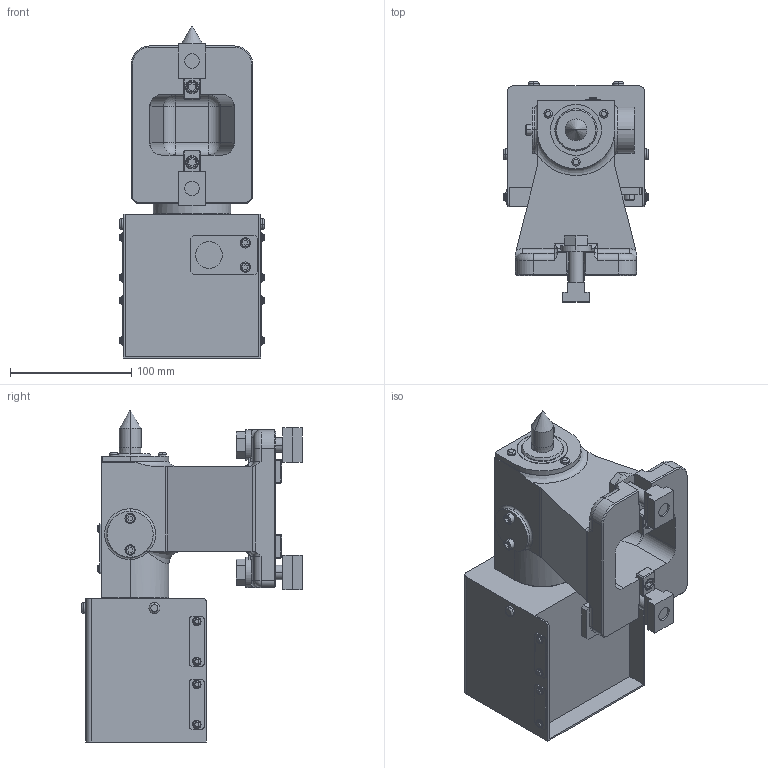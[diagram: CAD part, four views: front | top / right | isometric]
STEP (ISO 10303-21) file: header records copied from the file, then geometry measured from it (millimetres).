
FILE_DESCRIPTION (( 'STEP AP214' ), '1' );
FILE_NAME ('MR120A(H)N.STEP', '2020-03-17T08:50:29', ( '' ), ( '' ), 'SwSTEP 2.0', 'SolidWorks 2017', '' );
FILE_SCHEMA (( 'AUTOMOTIVE_DESIGN' ));
Length unit declared in the file: millimetre
Products named in the file (12): MR120A(H)N; CLAMPING PARTS(61E434366)結合; MR120A(H)N儂儞僞僀; シールホルダ(61E4421451)RS100LSA; 0030108012; 僇僶乕PAD(61E3725728)MR160AN; ネームプレート(61E4736691); センタソケット(61E3654831)MR160RS001; カバー(61E4407170)RS100LS; クランププレート(61E4407141)RS100LS; ガイドブロック(61M4198752); ボデー(61E248003)MR120RN
Assembly tree (13 placements, depth 3):
  MR120A(H)N
    MR120A(H)N儂儞僞僀
      ボデー(61E248003)MR120RN
      ガイドブロック(61M4198752)  x2
      クランププレート(61E4407141)RS100LS
      カバー(61E4407170)RS100LS
      センタソケット(61E3654831)MR160RS001
      ネームプレート(61E4736691)
      僇僶乕PAD(61E3725728)MR160AN
      0030108012
      シールホルダ(61E4421451)RS100LSA
    CLAMPING PARTS(61E434366)結合  x2
Bounding box: 120.2 x 181.9 x 274 mm (x, y, z)
Volume: 1960632 mm3; surface area: 209543.5 mm2
Topology: 12 solids, 12 shells, 2030 faces, 5533 edges, 3619 vertices
Faces by surface type: plane 1684, cylinder 210, torus 56, cone 39, bspline 31, sphere 10
Entity records: 69366 total; most frequent: CARTESIAN_POINT 14253, ORIENTED_EDGE 10730, DIRECTION 9668, EDGE_CURVE 5365, VECTOR 4732, LINE 4732, VERTEX_POINT 3521, AXIS2_PLACEMENT_3D 2468
